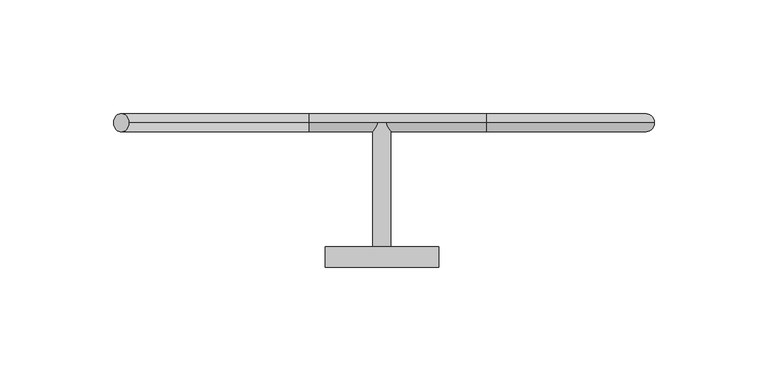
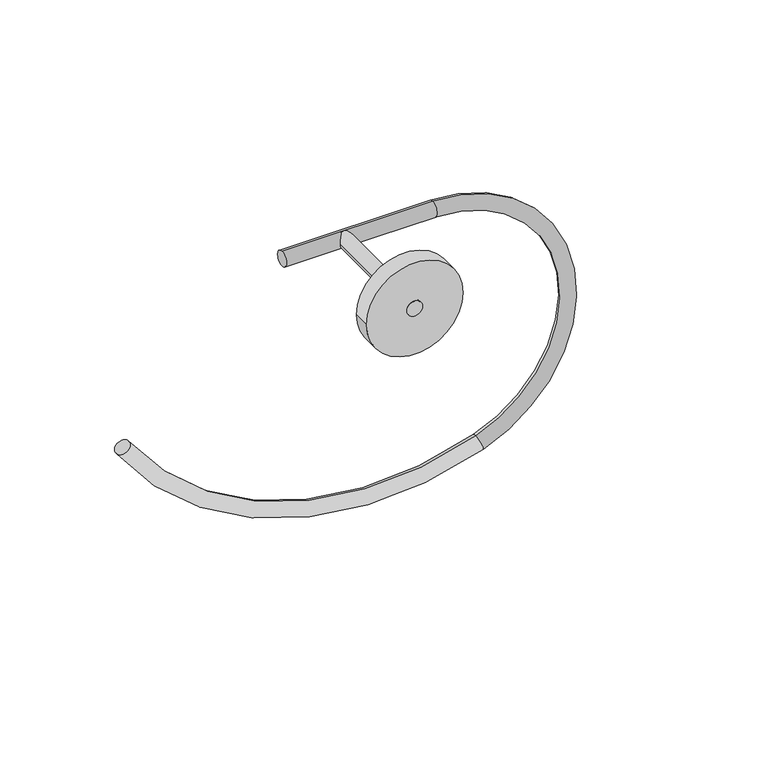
"""IFC4 building model written with IfcOpenShell, lengths in millimetres: flow terminal geometry, Toallero Dica 1009 : Toallero Dica manos 1009."""

from ifc_helpers import new_model, si_unit, point, frame, frame_2d, origin, place, context, project, spatial, circle_curve, ellipse_curve, trimmed, segment, composite_curve, outline, extrude, source, transform, mapped, element, save
from ifc_brep_helpers import plane_surface, cylinder_surface, revolved_surface, advanced_brep


def flow_terminal_c6eb5854(model_context):
    return source(origin(), model_context, "Body", "SolidModel", [
        extrude(outline(composite_curve([segment(trimmed(circle_curve(frame_2d((0.0, 125.0)), 4.0), [point((0.0, 121.0))], [point((0.0, 129.0))], False, "CARTESIAN"), True, "CONTINUOUS"), segment(trimmed(circle_curve(frame_2d((0.0, 125.0)), 4.0), [point((0.0, 129.0))], [point((0.0, 121.0))], False, "CARTESIAN"), True, "CONTINUOUS")], self_intersect=False)), frame((0.0, 58.7, 0.0), z_axis=(0.0, 1.0, 0.0), x_axis=(0.0, 0.0, 1.0)), (0.0, 0.0, 1.0), 63.3830496),
        extrude(outline(composite_curve([segment(trimmed(circle_curve(frame_2d((0.0, 125.0)), 25.0), [point((0.0, 100.0))], [point((0.0, 150.0))], False, "CARTESIAN"), True, "CONTINUOUS"), segment(trimmed(circle_curve(frame_2d((0.0, 125.0)), 25.0), [point((0.0, 150.0))], [point((0.0, 100.0))], False, "CARTESIAN"), True, "CONTINUOUS")], self_intersect=False)), frame((0.0, 58.7, 0.0), z_axis=(0.0, 1.0, 0.0), x_axis=(0.0, 0.0, 1.0)), (0.0, 0.0, 1.0), 8.9918697),
        advanced_brep(
        [(92.9954104, 122.2, -4.0), (92.9954104, 122.2, 4.0), (170.9338842, 122.2, -4.0), (170.9338842, 122.2, 4.0), (196.0697012, 122.2, -139.6002206), (193.3523155, 122.2, -132.0758724), (13.6299481, 122.2, -72.0247315), (6.935123, 122.2, -76.4041512)],
        [
            (0, 1, circle_curve(frame((92.9954104, 122.2, 0.0), z_axis=(-1.0, 0.0, 0.0), x_axis=(0.0, 0.0, 1.0)), 4.0)),
            (1, 0, circle_curve(frame((92.9954104, 122.2, 0.0), z_axis=(-1.0, 0.0, 0.0), x_axis=(0.0, 0.0, 1.0)), 4.0)),
            (0, 2),
            (2, 3, circle_curve(frame((170.9338842, 122.2, 0.0), z_axis=(-1.0, 0.0, 0.0), x_axis=(0.0, 0.0, 1.0)), 4.0)),
            (3, 1),
            (3, 2, circle_curve(frame((170.9338842, 122.2, 0.0), z_axis=(-1.0, 0.0, 0.0), x_axis=(0.0, 0.0, 1.0)), 4.0)),
            (4, 3, circle_curve(frame((170.9338842, 122.2, -70.0), z_axis=(0.0, -1.0, 0.0), x_axis=(0.0, 0.0, 1.0)), 74.0)),
            (2, 5, circle_curve(frame((170.9338842, 122.2, -70.0), z_axis=(0.0, 1.0, 0.0), x_axis=(0.0, 0.0, 1.0)), 66.0)),
            (5, 4, circle_curve(frame((194.7110083, 122.2, -135.8380465), z_axis=(0.9405435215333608, 0.0, 0.33967320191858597), x_axis=(0.33967320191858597, 0.0, -0.9405435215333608)), 4.0)),
            (4, 5, circle_curve(frame((194.7110083, 122.2, -135.8380465), z_axis=(0.9405435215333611, 0.0, 0.33967320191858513), x_axis=(0.33967320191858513, 0.0, -0.9405435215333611)), 4.0)),
            (6, 7, circle_curve(frame((10.2825356, 122.2, -74.2144413), z_axis=(-0.5474274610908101, 0.0, 0.8368531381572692), x_axis=(-0.8368531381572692, 0.0, -0.5474274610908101)), 4.0)),
            (7, 6, circle_curve(frame((10.2825356, 122.2, -74.2144413), z_axis=(-0.5474274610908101, 0.0, 0.8368531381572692), x_axis=(-0.8368531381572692, 0.0, -0.5474274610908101)), 4.0)),
            (7, 4, circle_curve(frame((141.4649332, 122.2, 11.5985211), z_axis=(0.0, -1.0, 0.0), x_axis=(0.33967320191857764, 0.0, -0.9405435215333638)), 160.7567733)),
            (5, 6, circle_curve(frame((141.4649332, 122.2, 11.5985211), z_axis=(0.0, 1.0, 0.0), x_axis=(0.33967320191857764, 0.0, -0.9405435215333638)), 152.7567733)),
        ],
        [
            plane_surface(frame((92.9954104, 58.7, 0.0), z_axis=(-1.0, 0.0, 0.0), x_axis=(0.0, -1.0, 0.0))),
            cylinder_surface(frame((92.9954104, 122.2, 0.0), z_axis=(-1.0, 0.0, 0.0), x_axis=(0.0, 0.0, 1.0)), 4.0),
            revolved_surface(trimmed(ellipse_curve(frame((170.9338842, 122.2, 0.0), z_axis=(-1.0, 0.0, 0.0), x_axis=(0.0, 0.0, 1.0)), 4.0, 4.0), [point((170.9338842, 122.2, -4.0))], [point((170.9338842, 122.2, 4.0))], True, "CARTESIAN"), (170.9338842, 58.7, -70.0), (0.0, 1.0, 0.0)),
            revolved_surface(trimmed(ellipse_curve(frame((170.9338842, 122.2, 0.0), z_axis=(-1.0, 0.0, 0.0), x_axis=(0.0, 0.0, 1.0)), 4.0, 4.0), [point((170.9338842, 122.2, 4.0))], [point((170.9338842, 122.2, -4.0))], True, "CARTESIAN"), (170.9338842, 58.7, -70.0), (0.0, 1.0, 0.0)),
            plane_surface(frame((10.2825356, 58.7, -74.2144413), z_axis=(-0.5474274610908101, 0.0, 0.8368531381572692), x_axis=(0.0, -1.0, 0.0))),
            revolved_surface(trimmed(ellipse_curve(frame((194.7110083, 122.2, -135.8380465), z_axis=(0.9405435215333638, 0.0, 0.33967320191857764), x_axis=(0.33967320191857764, 0.0, -0.9405435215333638)), 4.0, 4.0), [point((193.3523155, 122.2, -132.0758724))], [point((196.0697012, 122.2, -139.6002206))], True, "CARTESIAN"), (141.4649332, 58.7, 11.5985211), (0.0, 1.0, 0.0)),
            revolved_surface(trimmed(ellipse_curve(frame((194.7110083, 122.2, -135.8380465), z_axis=(0.9405435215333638, 0.0, 0.33967320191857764), x_axis=(0.33967320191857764, 0.0, -0.9405435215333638)), 4.0, 4.0), [point((196.0697012, 122.2, -139.6002206))], [point((193.3523155, 122.2, -132.0758724))], True, "CARTESIAN"), (141.4649332, 58.7, 11.5985211), (0.0, 1.0, 0.0)),
        ],
        [
            (0, [[1, 2]]),
            (1, [[-1, 3, 4, 5]]),
            (1, [[-2, -5, 6, -3]]),
            (2, [[7, -4, 8, 9]]),
            (3, [[-8, -6, -7, 10]]),
            (4, [[11, 12]]),
            (5, [[13, -9, 14, -12]]),
            (6, [[-14, -10, -13, -11]]),
        ],
    ),
    ])


if __name__ == "__main__":
    model = new_model("IFC4")
    model_context = context("Model", 3, world=origin())
    ifc_project = project(units=[si_unit("LENGTHUNIT", "METRE", prefix="MILLI")], contexts=[model_context])
    site = spatial("IfcSite", under=ifc_project)
    building = spatial("IfcBuilding", under=site)
    placement = place(None, origin())
    flow_terminal_shape = flow_terminal_c6eb5854(model_context)
    element("IfcFlowTerminal", 1, ObjectType="Toallero Dica 1009 : Toallero Dica manos 1009", at=placement, inside=building, context=model_context, shape_type="MappedRepresentation", body=[
        mapped(flow_terminal_shape, transform((0.0, 0.0, 0.0), x_axis=(1.0, 0.0, 0.0), y_axis=(0.0, 1.0, 0.0), z_axis=(0.0, 0.0, 1.0))),
    ])
    save(model, "model.ifc")
